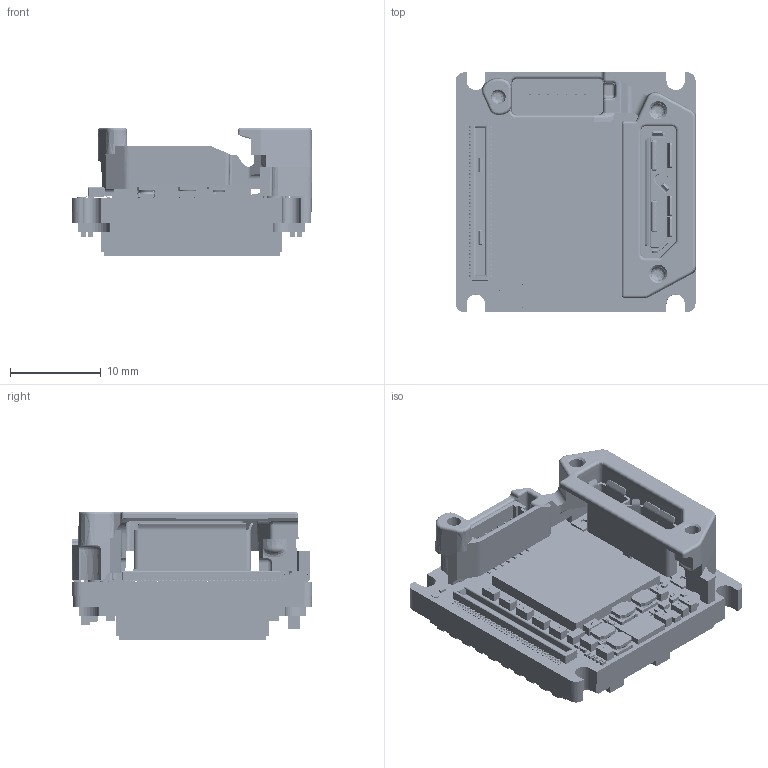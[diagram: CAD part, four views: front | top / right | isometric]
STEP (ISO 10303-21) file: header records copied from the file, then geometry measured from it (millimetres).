
FILE_DESCRIPTION (( 'STEP AP214' ), '1' );
FILE_NAME ('Alvium-USB180-Bare-Board-IMX545-546-547-487UV.STEP', '2022-12-22T09:47:12', ( '' ), ( '' ), 'SwSTEP 2.0', 'SolidWorks 2021', '' );
FILE_SCHEMA (( 'AUTOMOTIVE_DESIGN' ));
Length unit declared in the file: millimetre
Products named in the file (1): Alvium-USB180-Bare-Board-IMX545-546-547-487UV
Bounding box: 26.48 x 26.45 x 14.15 mm (x, y, z)
Surface area: 6520.5 mm2 (no closed solid volume)
Topology: 0 solids, 395 shells, 8202 faces, 24639 edges, 17578 vertices
Faces by surface type: plane 4468, bspline 2426, cylinder 1204, cone 46, torus 40, sphere 18
Entity records: 544483 total; most frequent: CARTESIAN_POINT 254213, ORIENTED_EDGE 43821, DIRECTION 30686, EDGE_CURVE 24627, VERTEX_POINT 17578, VECTOR 14148, LINE 14148, EDGE_LOOP 9236
